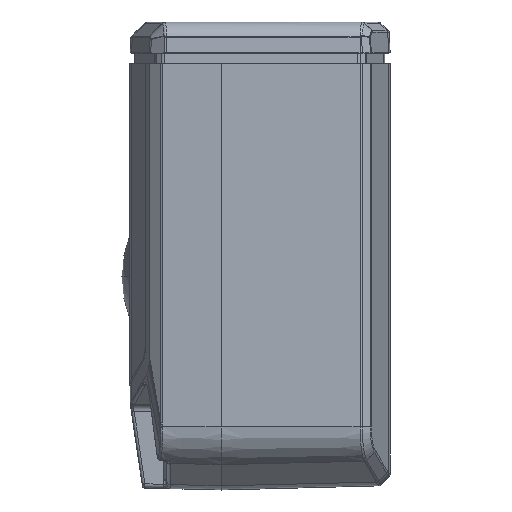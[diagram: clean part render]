
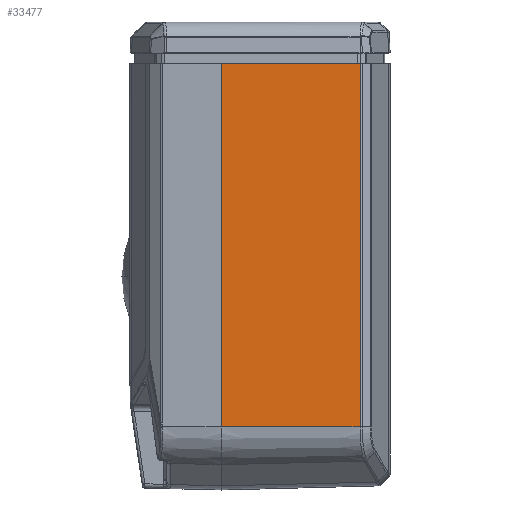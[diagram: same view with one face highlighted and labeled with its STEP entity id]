
A CAD part, left-side view. The second image highlights one B-rep face of the part: STEP entity #33477.
In plain terms, the highlighted planar face has unit normal (-1, -0.026, 0).
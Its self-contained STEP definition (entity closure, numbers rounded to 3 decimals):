
#5451=DIRECTION('',(0.026,-1.,0.));
#5452=VECTOR('',#5451,13.132);
#5453=CARTESIAN_POINT('',(-21.5,16.25,18.472));
#5454=LINE('',#5453,#5452);
#7449=CARTESIAN_POINT('',(-21.15,2.896,18.471));
#8618=DIRECTION('',(-0.026,1.,0.));
#8619=VECTOR('',#8618,13.358);
#8620=CARTESIAN_POINT('',(-21.15,2.896,
-16.432));
#8621=LINE('',#8620,#8619);
#8626=CARTESIAN_POINT('',(-21.15,2.896,18.471));
#8627=CARTESIAN_POINT('',(-21.151,2.922,18.471));
#8628=CARTESIAN_POINT('',(-21.152,2.972,18.472));
#8629=CARTESIAN_POINT('',(-21.154,3.047,18.472));
#8630=CARTESIAN_POINT('',(-21.156,3.097,18.472));
#8631=CARTESIAN_POINT('',(-21.156,3.122,18.472));
#8633=DIRECTION('',(0.,0.,1.));
#8634=VECTOR('',#8633,34.904);
#8635=CARTESIAN_POINT('',(-21.5,16.25,-16.432));
#8636=LINE('',#8635,#8634);
#8654=DIRECTION('',(0.,0.,-1.));
#8655=VECTOR('',#8654,34.903);
#8656=CARTESIAN_POINT('',(-21.15,2.896,18.471));
#8657=LINE('',#8656,#8655);
#11981=CARTESIAN_POINT('',(-21.15,2.896,
-16.432));
#13007=VERTEX_POINT('',#11981);
#13011=VERTEX_POINT('',#7449);
#13015=VERTEX_POINT('',#8631);
#13881=CARTESIAN_POINT('',(-21.5,16.25,-16.432));
#13883=VERTEX_POINT('',#13881);
#13901=CARTESIAN_POINT('',(-21.5,16.25,18.472));
#13902=VERTEX_POINT('',#13901);
#33463=CARTESIAN_POINT('',(-21.5,16.25,-18.237));
#33464=DIRECTION('',(-1.,-0.026,0.));
#33465=DIRECTION('',(0.,0.,1.));
#33466=AXIS2_PLACEMENT_3D('',#33463,#33464,#33465);
#33467=PLANE('',#33466);
#33469=ORIENTED_EDGE('',*,*,#33468,.T.);
#33470=ORIENTED_EDGE('',*,*,#26445,.T.);
#33471=ORIENTED_EDGE('',*,*,#31268,.F.);
#33473=ORIENTED_EDGE('',*,*,#33472,.T.);
#33474=ORIENTED_EDGE('',*,*,#33448,.T.);
#33475=EDGE_LOOP('',(#33469,#33470,#33471,#33473,#33474));
#33476=FACE_OUTER_BOUND('',#33475,.F.);
#33477=ADVANCED_FACE('',(#33476),#33467,.T.);
#8632=B_SPLINE_CURVE_WITH_KNOTS('',3,(#8626,#8627,#8628,#8629,#8630,#8631),
.UNSPECIFIED.,.F.,.F.,(4,1,1,4),(0.,0.333,0.667,1.),
.UNSPECIFIED.);
#26445=EDGE_CURVE('',#13902,#13015,#5454,.T.);
#31268=EDGE_CURVE('',#13011,#13015,#8632,.T.);
#33448=EDGE_CURVE('',#13007,#13883,#8621,.T.);
#33468=EDGE_CURVE('',#13883,#13902,#8636,.T.);
#33472=EDGE_CURVE('',#13011,#13007,#8657,.T.);
